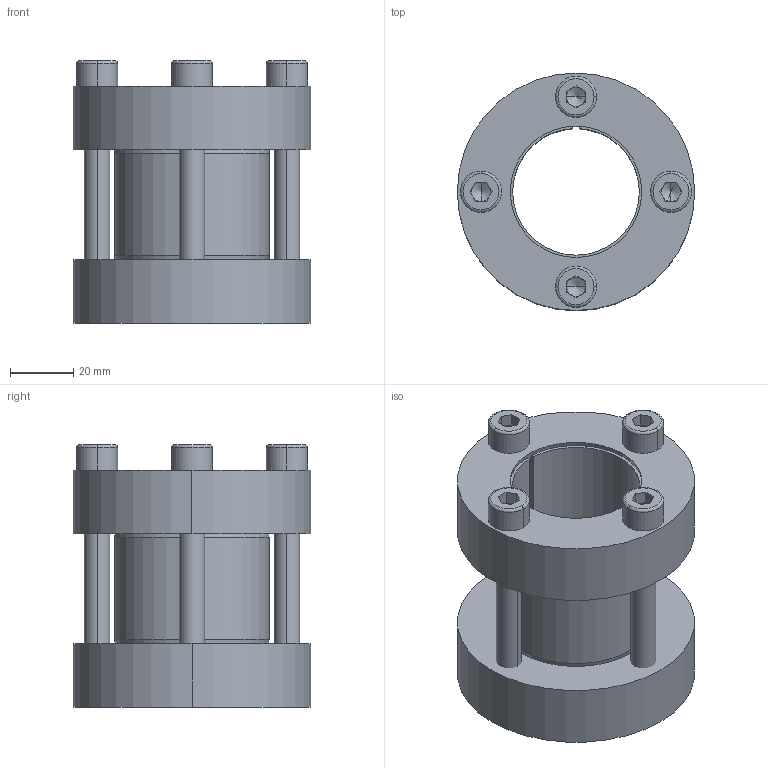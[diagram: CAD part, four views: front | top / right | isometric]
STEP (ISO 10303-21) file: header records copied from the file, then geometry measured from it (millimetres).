
FILE_DESCRIPTION (( 'STEP AP214' ), '1' );
FILE_NAME ('CONEX-M-40x75.step', '2013-04-06T13:25:31', ( 'Pc' ), ( '' ), 'SwSTEP 2.0', 'SolidWorks 2013', '' );
FILE_SCHEMA (( 'AUTOMOTIVE_DESIGN' ));
Length unit declared in the file: millimetre
Products named in the file (1): CONEX-M-40x75
Bounding box: 75 x 75 x 82.85 mm (x, y, z)
Volume: 157304.6 mm3; surface area: 59484.8 mm2
Topology: 7 solids, 7 shells, 152 faces, 342 edges, 204 vertices
Faces by surface type: plane 68, cylinder 42, cone 26, torus 16
Entity records: 5991 total; most frequent: DIRECTION 798, CARTESIAN_POINT 718, ORIENTED_EDGE 668, EDGE_CURVE 334, AXIS2_PLACEMENT_3D 315, VERTEX_POINT 204, EDGE_LOOP 180, LINE 168
